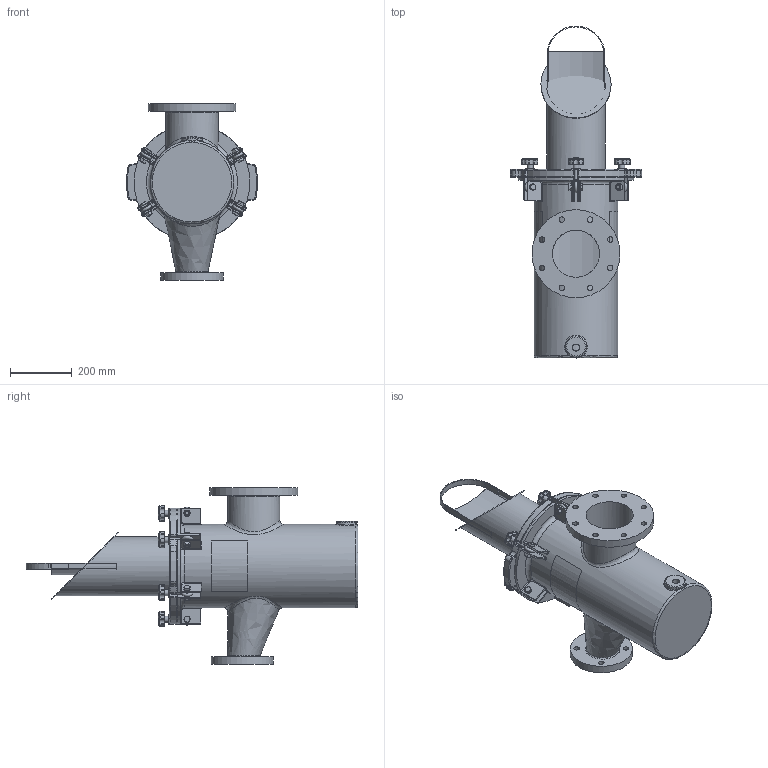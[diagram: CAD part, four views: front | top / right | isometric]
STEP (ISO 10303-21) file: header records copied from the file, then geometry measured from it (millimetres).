
FILE_DESCRIPTION(/* description */ ('150MM X 80MM FIBERGLASS STRAINER BODY'),/* implementation_level */ '2;1');
FILE_NAME(/* name */ 'C:\Users\r.kommineni.ext\Desktop\NB\CAD\Workspace\FG Reducing Strainer\Guardian FG Reducing H&L Strainer (Metric)_CLEARANCE VOLUME\STRAINER H&L 150MM X 80MM.stp',/* time_stamp */ '2017-06-09T13:34:12-04:00',/* author */ ('r.kommineni.ext'),/* organization */ (''),/* preprocessor_version */ 'ST-DEVELOPER v16.1',/* originating_system */ 'Autodesk Inventor 2016',/* authorisation */ '');
FILE_SCHEMA (('CONFIG_CONTROL_DESIGN'));
Length unit declared in the file: inch
Products named in the file (19): NBFGBODY06X03MM; 150NBCVR48R1; 150NBGSK48R1; Perforated Basket 10in; Bride (Ring) 10in; Baffle 10in; Handle 10in; Bottom Strainer 10in; Nut- 1_2  UNC; Bolt-1_2 x 1 1_2  UNC; EyeBolt; Washer; Knob M10; Securing Assembly For FG without Brace; Label for 10.625 inch (Right); Label for 10.625 inch (Left); NBBSK08T316_clearance; NBBSK08T316_clearance_1; STRAINER H&L 150MM X  80MM
Assembly tree (23 placements, depth 3):
  STRAINER H&L 150MM X  80MM
    NBFGBODY06X03MM
    150NBCVR48R1
    150NBGSK48R1
    NBBSK08T316_clearance_1
      Perforated Basket 10in
      Bride (Ring) 10in
      Baffle 10in
      Handle 10in
      Bottom Strainer 10in
      NBBSK08T316_clearance
    Securing Assembly For FG without Brace  x6
      Nut- 1_2  UNC
      Bolt-1_2 x 1 1_2  UNC
      EyeBolt
      Washer
      Knob M10
    Label for 10.625 inch (Right)
    Label for 10.625 inch (Left)
Bounding box: 424.18 x 1073.15 x 571.5 mm (x, y, z)
Volume: 11215218.2 mm3; surface area: 3123699.2 mm2
Topology: 40 solids, 45 shells, 1293 faces, 2981 edges, 1769 vertices
Faces by surface type: cylinder 472, plane 344, cone 138, torus 124, bspline 113, sphere 102
Full cylindrical faces by diameter (mm): 3.175 x10, 6.35 x2, 8.382 x6, 9.525 x12, 10.592 x6, 12.7 x6, 15.875 x12, 17.78 x12, 19 x12, 19.05 x6, 22.809 x1, 31.75 x6, 68.263 x1, 152.4 x1, 168.275 x1, 187.325 x2, 190.5 x2, 193.04 x1, 200.66 x1, 254 x2, 266.7 x1, 269.875 x1, 276.225 x1, 284.48 x1, 311.15 x1, 317.5 x1
Entity records: 27367 total; most frequent: CARTESIAN_POINT 10827, DIRECTION 3427, ORIENTED_EDGE 3084, EDGE_CURVE 1568, AXIS2_PLACEMENT_3D 1433, VERTEX_POINT 995, EDGE_LOOP 869, CIRCLE 718
